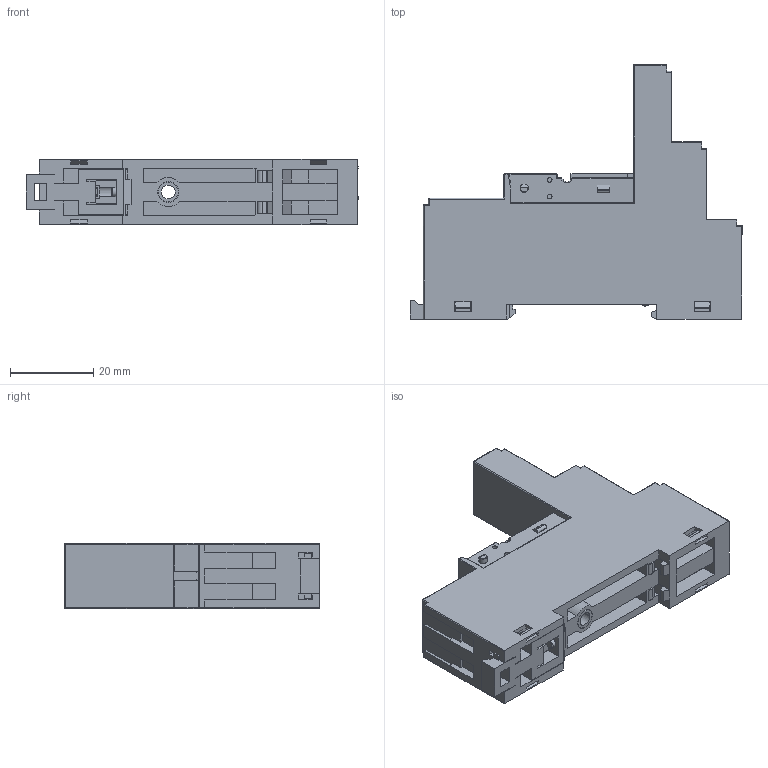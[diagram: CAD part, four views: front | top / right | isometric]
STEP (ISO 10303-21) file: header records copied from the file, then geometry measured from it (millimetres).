
FILE_DESCRIPTION (( 'STEP AP203' ), '1' );
FILE_NAME ('SRU05-E 俋倛.STEP', '2023-01-12T07:23:24', ( '' ), ( '' ), 'SwSTEP 2.0', 'SolidWorks 2018', '' );
FILE_SCHEMA (( 'CONFIG_CONTROL_DESIGN' ));
Length unit declared in the file: millimetre
Products named in the file (1): SRU05-E 俋倛
Bounding box: 79.6 x 61 x 15.6 mm (x, y, z)
Volume: 37000.5 mm3; surface area: 13999.4 mm2
Topology: 1 solids, 7 shells, 905 faces, 2331 edges, 1452 vertices
Faces by surface type: plane 624, cylinder 167, torus 65, cone 29, sphere 20
Entity records: 27639 total; most frequent: CARTESIAN_POINT 5799, ORIENTED_EDGE 4606, DIRECTION 4372, EDGE_CURVE 2303, VECTOR 1702, LINE 1702, VERTEX_POINT 1452, AXIS2_PLACEMENT_3D 1335
